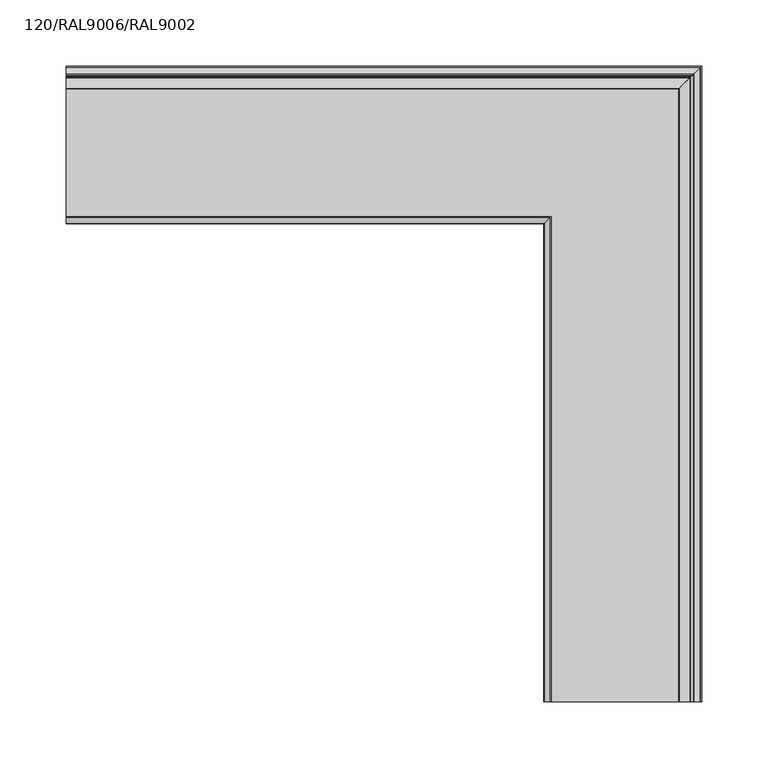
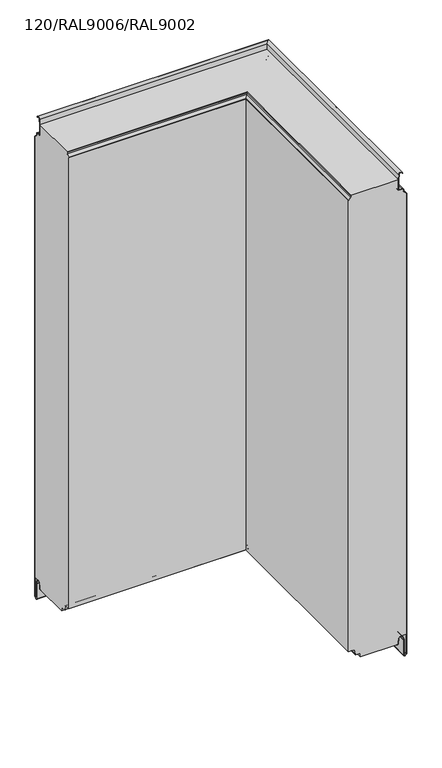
"""IFC4 building model written with IfcOpenShell, lengths in millimetres: plate geometry, TR_C_H_FHL_Corner_Tr_A : 120/RAL9006/RAL9002."""

from ifc_helpers import new_model, si_unit, frame, origin, place, context, project, spatial, polyline, circle_curve, ellipse_curve, source, transform, mapped, element, save
from ifc_brep_helpers import plane_surface, cylinder_surface, revolved_surface, advanced_brep


def plate_120_ral9006_ral9002_e2026118(model_context):
    return source(origin(), model_context, "Body", "AdvancedBrep", [
        advanced_brep(
        [(222.5544237, -480.0, 1000.0), (126.8, -480.0, 1000.0), (126.8, -480.0, 998.1), (125.8334524, -480.0, 995.7665476), (121.4443651, -480.0, 991.3774603), (120.8, -480.0, 989.8218254), (120.8, -480.0, 19.9), (129.45, -480.0, 19.9), (133.635433, -480.0, 16.3880048), (134.9718183, -480.0, 8.808987), (136.0551068, -480.0, 7.9), (145.14, -480.0, 7.9), (145.14, -480.0, 0.0), (219.2, -480.0, 0.0), (220.2091721, -480.0, 0.1), (221.9027031, -480.0, 1.6518352), (222.7666165, -480.0, 11.5264116), (227.6479706, -480.0, 15.9993484), (239.2, -480.0, 15.9993484), (239.2, -480.0, 963.4370797), (238.6435029, -480.0, 964.7805826), (233.820101, -480.0, 969.6039845), (233.0, -480.0, 971.5838835), (233.0, -480.0, 974.4), (231.1, -480.0, 976.3), (225.2, -480.0, 976.3), (222.4, -480.0, 979.1), (222.4, -480.0, 998.2349288), (120.8, -119.2, 19.9), (120.8, -119.2, 989.8218254), (-240.0, -119.2, 989.8218254), (-240.0, -119.2, 19.9), (239.2, -0.8, 963.4370797), (239.2, -0.8, 15.9993484), (-240.0, -0.8, 15.9993484), (-240.0, -0.8, 963.4370797), (-240.0, -17.4455763, 1000.0), (-240.0, -17.6, 998.2349288), (-240.0, -17.6, 979.1), (-240.0, -14.8, 976.3), (-240.0, -8.9, 976.3), (-240.0, -7.0, 974.4), (-240.0, -7.0, 971.5838835), (-240.0, -6.179899, 969.6039845), (-240.0, -1.3564971, 964.7805826), (-240.0, -12.3520294, 15.9993484), (-240.0, -17.2333835, 11.5264116), (-240.0, -18.0972969, 1.6518352), (-240.0, -19.7908279, 0.1), (-240.0, -20.8, 0.0), (-240.0, -94.86, 0.0), (-240.0, -94.86, 7.9), (-240.0, -103.9448932, 7.9), (-240.0, -105.0281817, 8.808987), (-240.0, -106.364567, 16.3880048), (-240.0, -110.55, 19.9), (-240.0, -118.5556349, 991.3774603), (-240.0, -114.1665476, 995.7665476), (-240.0, -113.2, 998.1), (-240.0, -113.2, 1000.0), (222.5544237, -17.4455763, 1000.0), (126.8, -113.2, 1000.0), (145.14, -94.86, 0.0), (219.2, -20.8, 0.0), (126.8, -113.2, 998.1), (125.8334524, -114.1665476, 995.7665476), (121.4443651, -118.5556349, 991.3774603), (129.45, -110.55, 19.9), (133.635433, -106.364567, 16.3880048), (134.9718183, -105.0281817, 8.808987), (136.0551068, -103.9448932, 7.9), (145.14, -94.86, 7.9), (220.2091721, -19.7908279, 0.1), (221.9027031, -18.0972969, 1.6518352), (222.7666165, -17.2333835, 11.5264116), (227.6479706, -12.3520294, 15.9993484), (238.6435029, -1.3564971, 964.7805826), (233.820101, -6.179899, 969.6039845), (233.0, -7.0, 971.5838835), (233.0, -7.0, 974.4), (231.1, -8.9, 976.3), (225.2, -14.8, 976.3), (222.4, -17.6, 979.1), (222.4, -17.6, 998.2349288)],
        [
            (0, 1),
            (1, 2),
            (2, 3, circle_curve(frame((123.5, -480.0, 998.1), z_axis=(0.0, 1.0, 0.0), x_axis=(-1.0, 0.0, 0.0)), 3.3)),
            (3, 4),
            (4, 5, circle_curve(frame((123.0, -480.0, 989.8218254), z_axis=(0.0, -1.0, 0.0), x_axis=(-1.0, 0.0, 0.0)), 2.2)),
            (5, 6),
            (6, 7),
            (7, 8, circle_curve(frame((129.45, -480.0, 15.65), z_axis=(0.0, 1.0, 0.0), x_axis=(-1.0, 0.0, 0.0)), 4.25)),
            (8, 9),
            (9, 10, circle_curve(frame((136.0551068, -480.0, 9.0), z_axis=(0.0, -1.0, 0.0), x_axis=(-1.0, 0.0, 0.0)), 1.1)),
            (10, 11),
            (11, 12),
            (12, 13),
            (13, 14),
            (14, 15, circle_curve(frame((220.2091721, -480.0, 1.8), z_axis=(0.0, -1.0, 0.0), x_axis=(-1.0, 0.0, 0.0)), 1.7)),
            (15, 16),
            (16, 17, circle_curve(frame((227.6479706, -480.0, 11.0993484), z_axis=(0.0, 1.0, 0.0), x_axis=(-1.0, 0.0, 0.0)), 4.9)),
            (17, 18),
            (18, 19),
            (19, 20, circle_curve(frame((237.3, -480.0, 963.4370797), z_axis=(0.0, -1.0, 0.0), x_axis=(-1.0, 0.0, 0.0)), 1.9)),
            (20, 21),
            (21, 22, circle_curve(frame((235.8, -480.0, 971.5838835), z_axis=(0.0, 1.0, 0.0), x_axis=(-1.0, 0.0, 0.0)), 2.8)),
            (22, 23),
            (23, 24, circle_curve(frame((231.1, -480.0, 974.4), z_axis=(0.0, -1.0, 0.0), x_axis=(-1.0, 0.0, 0.0)), 1.9)),
            (24, 25),
            (25, 26, circle_curve(frame((225.2, -480.0, 979.1), z_axis=(0.0, 1.0, 0.0), x_axis=(-1.0, 0.0, 0.0)), 2.8)),
            (26, 27),
            (27, 0),
            (28, 29),
            (29, 30),
            (30, 31),
            (31, 28),
            (32, 33),
            (33, 34),
            (34, 35),
            (35, 32),
            (36, 37),
            (37, 38),
            (38, 39, circle_curve(frame((-240.0, -14.8, 979.1), z_axis=(1.0, 0.0, 0.0), x_axis=(0.0, -1.0, 0.0)), 2.8)),
            (39, 40),
            (40, 41, circle_curve(frame((-240.0, -8.9, 974.4), z_axis=(-1.0, 0.0, 0.0), x_axis=(0.0, -1.0, 0.0)), 1.9)),
            (41, 42),
            (42, 43, circle_curve(frame((-240.0, -4.2, 971.5838835), z_axis=(1.0, 0.0, 0.0), x_axis=(0.0, -1.0, 0.0)), 2.8)),
            (43, 44),
            (44, 35, circle_curve(frame((-240.0, -2.7, 963.4370797), z_axis=(-1.0, 0.0, 0.0), x_axis=(0.0, -1.0, 0.0)), 1.9)),
            (34, 45),
            (45, 46, circle_curve(frame((-240.0, -12.3520294, 11.0993484), z_axis=(1.0, 0.0, 0.0), x_axis=(0.0, -1.0, 0.0)), 4.9)),
            (46, 47),
            (47, 48, circle_curve(frame((-240.0, -19.7908279, 1.8), z_axis=(-1.0, 0.0, 0.0), x_axis=(0.0, -1.0, 0.0)), 1.7)),
            (48, 49),
            (49, 50),
            (50, 51),
            (51, 52),
            (52, 53, circle_curve(frame((-240.0, -103.9448932, 9.0), z_axis=(-1.0, 0.0, 0.0), x_axis=(0.0, -1.0, 0.0)), 1.1)),
            (53, 54),
            (54, 55, circle_curve(frame((-240.0, -110.55, 15.65), z_axis=(1.0, 0.0, 0.0), x_axis=(0.0, -1.0, 0.0)), 4.25)),
            (55, 31),
            (30, 56, circle_curve(frame((-240.0, -117.0, 989.8218254), z_axis=(-1.0, 0.0, 0.0), x_axis=(0.0, -1.0, 0.0)), 2.2)),
            (56, 57),
            (57, 58, circle_curve(frame((-240.0, -116.5, 998.1), z_axis=(1.0, 0.0, 0.0), x_axis=(0.0, -1.0, 0.0)), 3.3)),
            (58, 59),
            (59, 36),
            (0, 60),
            (60, 36),
            (59, 61),
            (61, 1),
            (5, 29),
            (28, 6),
            (12, 62),
            (62, 50),
            (49, 63),
            (63, 13),
            (18, 33),
            (32, 19),
            (61, 64),
            (64, 2),
            (64, 65, ellipse_curve(frame((123.5, -116.5, 998.1), z_axis=(-0.7071067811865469, 0.707106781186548, 0.0), x_axis=(0.7071067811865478, 0.707106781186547, 0.0)), 4.6669048, 3.3)),
            (65, 3),
            (65, 66),
            (66, 4),
            (66, 29, ellipse_curve(frame((123.0, -117.0, 989.8218254), z_axis=(0.7071067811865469, -0.707106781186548, 0.0), x_axis=(-0.7071067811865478, -0.707106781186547, 0.0)), 3.1112698, 2.2)),
            (55, 67),
            (67, 7),
            (67, 68, ellipse_curve(frame((129.45, -110.55, 15.65), z_axis=(-0.7071067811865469, 0.707106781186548, 0.0), x_axis=(0.7071067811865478, 0.707106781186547, 0.0)), 6.0104076, 4.25)),
            (68, 8),
            (68, 69),
            (69, 9),
            (69, 70, ellipse_curve(frame((136.0551068, -103.9448932, 9.0), z_axis=(0.7071067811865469, -0.707106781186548, 0.0), x_axis=(-0.7071067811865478, -0.707106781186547, 0.0)), 1.5556349, 1.1)),
            (70, 10),
            (70, 52),
            (51, 71),
            (71, 11),
            (71, 62),
            (63, 72),
            (72, 14),
            (72, 73, ellipse_curve(frame((220.2091721, -19.7908279, 1.8), z_axis=(0.7071067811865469, -0.707106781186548, 0.0), x_axis=(-0.7071067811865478, -0.707106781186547, 0.0)), 2.4041631, 1.7)),
            (73, 15),
            (73, 74),
            (74, 16),
            (74, 75, ellipse_curve(frame((227.6479706, -12.3520294, 11.0993484), z_axis=(-0.7071067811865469, 0.707106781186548, 0.0), x_axis=(0.7071067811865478, 0.707106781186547, 0.0)), 6.9296465, 4.9)),
            (75, 17),
            (75, 45),
            (32, 76, ellipse_curve(frame((237.3, -2.7, 963.4370797), z_axis=(0.7071067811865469, -0.707106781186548, 0.0), x_axis=(-0.7071067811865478, -0.707106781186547, 0.0)), 2.6870058, 1.9)),
            (76, 20),
            (76, 77),
            (77, 21),
            (77, 78, ellipse_curve(frame((235.8, -4.2, 971.5838835), z_axis=(-0.7071067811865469, 0.707106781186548, 0.0), x_axis=(0.7071067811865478, 0.707106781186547, 0.0)), 3.959798, 2.8)),
            (78, 22),
            (78, 79),
            (79, 23),
            (79, 80, ellipse_curve(frame((231.1, -8.9, 974.4), z_axis=(0.7071067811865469, -0.707106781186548, 0.0), x_axis=(-0.7071067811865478, -0.707106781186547, 0.0)), 2.6870058, 1.9)),
            (80, 24),
            (80, 40),
            (39, 81),
            (81, 25),
            (81, 82, ellipse_curve(frame((225.2, -14.8, 979.1), z_axis=(-0.7071067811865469, 0.707106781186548, 0.0), x_axis=(0.7071067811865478, 0.707106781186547, 0.0)), 3.959798, 2.8)),
            (82, 26),
            (82, 83),
            (83, 27),
            (83, 60),
            (58, 64),
            (57, 65),
            (56, 66),
            (54, 68),
            (53, 69),
            (48, 72),
            (47, 73),
            (46, 74),
            (44, 76),
            (43, 77),
            (42, 78),
            (41, 79),
            (38, 82),
            (37, 83),
        ],
        [
            plane_surface(frame((240.0, -480.0, 0.0), z_axis=(0.0, -1.0, 0.0), x_axis=(0.0, 0.0, 1.0))),
            plane_surface(frame((120.8, -119.2, 989.8218254), z_axis=(0.0, -1.0, 0.0), x_axis=(-1.0, 0.0, 0.0))),
            plane_surface(frame((239.2, -0.8, 15.9993484), z_axis=(0.0, 1.0, 0.0), x_axis=(-1.0, 0.0, 0.0))),
            plane_surface(frame((-240.0, 0.0, 0.0), z_axis=(-1.0, 0.0, 0.0), x_axis=(0.0, 0.0, 1.0))),
            plane_surface(frame((222.5544237, -480.0, 1000.0), z_axis=(0.0, 0.0, 1.0), x_axis=(0.0, 1.0, 0.0))),
            plane_surface(frame((120.8, -480.0, 989.8218254), z_axis=(-1.0, 0.0, 0.0), x_axis=(0.0, 1.0, 0.0))),
            plane_surface(frame((145.14, -480.0, 0.0), z_axis=(0.0, 0.0, -1.0), x_axis=(0.0, 1.0, 0.0))),
            plane_surface(frame((239.2, -480.0, 15.9993484), z_axis=(1.0, 0.0, 0.0), x_axis=(0.0, 1.0, 0.0))),
            plane_surface(frame((126.8, -480.0, 1000.0), z_axis=(-1.0, 0.0, 0.0), x_axis=(0.0, 1.0, 0.0))),
            revolved_surface(polyline([(120.2, -113.19999996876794, 998.1), (120.2, -480.0, 998.1)]), (123.5, -480.0, 998.1), (0.0, 1.0, 0.0)),
            plane_surface(frame((125.8334524, -480.0, 995.7665476), z_axis=(-0.7071067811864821, 0.0, 0.707106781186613), x_axis=(0.0, 1.0, 0.0))),
            cylinder_surface(frame((123.0, -480.0, 989.8218254), z_axis=(0.0, -1.0, 0.0), x_axis=(-1.0, 0.0, 0.0)), 2.2),
            plane_surface(frame((120.8, -480.0, 19.9), z_axis=(0.0, 0.0, -1.0), x_axis=(0.0, 1.0, 0.0))),
            revolved_surface(polyline([(125.19999999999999, -106.30000002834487, 15.65), (125.19999999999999, -480.0, 15.65)]), (129.45, -480.0, 15.65), (0.0, 1.0, 0.0)),
            plane_surface(frame((133.635433, -480.0, 16.3880048), z_axis=(-0.984807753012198, 0.0, -0.1736481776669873), x_axis=(0.0, 1.0, 0.0))),
            cylinder_surface(frame((136.0551068, -480.0, 9.0), z_axis=(0.0, -1.0, 0.0), x_axis=(-1.0, 0.0, 0.0)), 1.1),
            plane_surface(frame((136.0551068, -480.0, 7.9), z_axis=(0.0, 0.0, -1.0), x_axis=(0.0, 1.0, 0.0))),
            plane_surface(frame((145.14, -480.0, 7.9), z_axis=(-1.0, 0.0, 0.0), x_axis=(0.0, 1.0, 0.0))),
            plane_surface(frame((219.2, -480.0, 0.0), z_axis=(0.09860819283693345, 0.0, -0.9951263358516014), x_axis=(0.0, 1.0, 0.0))),
            cylinder_surface(frame((220.2091721, -480.0, 1.8), z_axis=(0.0, -1.0, 0.0), x_axis=(-1.0, 0.0, 0.0)), 1.7),
            plane_surface(frame((221.9027031, -480.0, 1.6518352), z_axis=(0.996194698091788, 0.0, -0.08715574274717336), x_axis=(0.0, 1.0, 0.0))),
            revolved_surface(polyline([(222.7479706, -7.45202936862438, 11.0993484), (222.7479706, -480.0, 11.0993484)]), (227.6479706, -480.0, 11.0993484), (0.0, 1.0, 0.0)),
            plane_surface(frame((227.6479706, -480.0, 15.9993484), z_axis=(0.0, 0.0, -1.0), x_axis=(0.0, 1.0, 0.0))),
            cylinder_surface(frame((237.3, -480.0, 963.4370797), z_axis=(0.0, -1.0, 0.0), x_axis=(-1.0, 0.0, 0.0)), 1.9),
            plane_surface(frame((238.6435029, -480.0, 964.7805826), z_axis=(0.7071067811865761, 0.0, 0.707106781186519), x_axis=(0.0, 1.0, 0.0))),
            revolved_surface(polyline([(233.0, -1.3999999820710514, 971.5838835), (233.0, -480.0, 971.5838835)]), (235.8, -480.0, 971.5838835), (0.0, 1.0, 0.0)),
            plane_surface(frame((233.0, -480.0, 971.5838835), z_axis=(1.0, 0.0, 0.0), x_axis=(0.0, 1.0, 0.0))),
            cylinder_surface(frame((231.1, -480.0, 974.4), z_axis=(0.0, -1.0, 0.0), x_axis=(-1.0, 0.0, 0.0)), 1.9),
            plane_surface(frame((231.1, -480.0, 976.3), z_axis=(0.0, 0.0, 1.0), x_axis=(0.0, 1.0, 0.0))),
            revolved_surface(polyline([(222.39999999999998, -11.999999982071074, 979.1), (222.39999999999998, -480.0, 979.1)]), (225.2, -480.0, 979.1), (0.0, 1.0, 0.0)),
            plane_surface(frame((222.4, -480.0, 979.1), z_axis=(1.0, 0.0, 0.0), x_axis=(0.0, 1.0, 0.0))),
            plane_surface(frame((222.4, -480.0, 998.2349288), z_axis=(0.9961946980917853, 0.0, -0.08715574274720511), x_axis=(0.0, 1.0, 0.0))),
            plane_surface(frame((126.8, -113.2, 1000.0), z_axis=(0.0, -1.0, 0.0), x_axis=(-1.0, 0.0, 0.0))),
            revolved_surface(polyline([(-240.0, -119.8, 998.1), (126.80000003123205, -119.8, 998.1)]), (240.0, -116.5, 998.1), (-1.0, 0.0, 0.0)),
            plane_surface(frame((125.8334524, -114.1665476, 995.7665476), z_axis=(0.0, -0.7071067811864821, 0.707106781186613), x_axis=(-1.0, 0.0, 0.0))),
            cylinder_surface(frame((240.0, -117.0, 989.8218254), z_axis=(1.0, 0.0, 0.0), x_axis=(0.0, -1.0, 0.0)), 2.2),
            revolved_surface(polyline([(-240.0, -114.8, 15.65), (133.69999997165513, -114.8, 15.65)]), (240.0, -110.55, 15.65), (-1.0, 0.0, 0.0)),
            plane_surface(frame((133.635433, -106.364567, 16.3880048), z_axis=(0.0, -0.984807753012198, -0.1736481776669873), x_axis=(-1.0, 0.0, 0.0))),
            cylinder_surface(frame((240.0, -103.9448932, 9.0), z_axis=(1.0, 0.0, 0.0), x_axis=(0.0, -1.0, 0.0)), 1.1),
            plane_surface(frame((145.14, -94.86, 7.9), z_axis=(0.0, -1.0, 0.0), x_axis=(-1.0, 0.0, 0.0))),
            plane_surface(frame((219.2, -20.8, 0.0), z_axis=(0.0, 0.09860819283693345, -0.9951263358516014), x_axis=(-1.0, 0.0, 0.0))),
            cylinder_surface(frame((240.0, -19.7908279, 1.8), z_axis=(1.0, 0.0, 0.0), x_axis=(0.0, -1.0, 0.0)), 1.7),
            plane_surface(frame((221.9027031, -18.0972969, 1.6518352), z_axis=(0.0, 0.996194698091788, -0.08715574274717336), x_axis=(-1.0, 0.0, 0.0))),
            revolved_surface(polyline([(-240.0, -17.252029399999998, 11.0993484), (232.54797063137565, -17.252029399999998, 11.0993484)]), (240.0, -12.3520294, 11.0993484), (-1.0, 0.0, 0.0)),
            cylinder_surface(frame((240.0, -2.7, 963.4370797), z_axis=(1.0, 0.0, 0.0), x_axis=(0.0, -1.0, 0.0)), 1.9),
            plane_surface(frame((238.6435029, -1.3564971, 964.7805826), z_axis=(0.0, 0.7071067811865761, 0.707106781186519), x_axis=(-1.0, 0.0, 0.0))),
            revolved_surface(polyline([(-240.0, -7.0, 971.5838835), (238.60000001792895, -7.0, 971.5838835)]), (240.0, -4.2, 971.5838835), (-1.0, 0.0, 0.0)),
            plane_surface(frame((233.0, -7.0, 971.5838835), z_axis=(0.0, 1.0, 0.0), x_axis=(-1.0, 0.0, 0.0))),
            cylinder_surface(frame((240.0, -8.9, 974.4), z_axis=(1.0, 0.0, 0.0), x_axis=(0.0, -1.0, 0.0)), 1.9),
            revolved_surface(polyline([(-240.0, -17.6, 979.1), (228.00000001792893, -17.6, 979.1)]), (240.0, -14.8, 979.1), (-1.0, 0.0, 0.0)),
            plane_surface(frame((222.4, -17.6, 979.1), z_axis=(0.0, 1.0, 0.0), x_axis=(-1.0, 0.0, 0.0))),
            plane_surface(frame((222.4, -17.6, 998.2349288), z_axis=(0.0, 0.9961946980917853, -0.08715574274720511), x_axis=(-1.0, 0.0, 0.0))),
        ],
        [
            (0, [[1, 2, 3, 4, 5, 6, 7, 8, 9, 10, 11, 12, 13, 14, 15, 16, 17, 18, 19, 20, 21, 22, 23, 24, 25, 26, 27, 28]]),
            (1, [[29, 30, 31, 32]]),
            (2, [[33, 34, 35, 36]]),
            (3, [[37, 38, 39, 40, 41, 42, 43, 44, 45, -35, 46, 47, 48, 49, 50, 51, 52, 53, 54, 55, 56, 57, -31, 58, 59, 60, 61, 62]]),
            (4, [[-1, 63, 64, -62, 65, 66]]),
            (5, [[-6, 67, -29, 68]]),
            (6, [[-13, 69, 70, -51, 71, 72]]),
            (7, [[-19, 73, -33, 74]]),
            (8, [[-2, -66, 75, 76]]),
            (9, [[-3, -76, 77, 78]]),
            (10, [[-4, -78, 79, 80]]),
            (11, [[-5, -80, 81, -67]]),
            (12, [[-7, -68, -32, -57, 82, 83]]),
            (13, [[-8, -83, 84, 85]]),
            (14, [[-9, -85, 86, 87]]),
            (15, [[-10, -87, 88, 89]]),
            (16, [[-11, -89, 90, -53, 91, 92]]),
            (17, [[-12, -92, 93, -69]]),
            (18, [[-14, -72, 94, 95]]),
            (19, [[-15, -95, 96, 97]]),
            (20, [[-16, -97, 98, 99]]),
            (21, [[-17, -99, 100, 101]]),
            (22, [[-18, -101, 102, -46, -34, -73]]),
            (23, [[-20, -74, 103, 104]]),
            (24, [[-21, -104, 105, 106]]),
            (25, [[-22, -106, 107, 108]]),
            (26, [[-23, -108, 109, 110]]),
            (27, [[-24, -110, 111, 112]]),
            (28, [[-25, -112, 113, -40, 114, 115]]),
            (29, [[-26, -115, 116, 117]]),
            (30, [[-27, -117, 118, 119]]),
            (31, [[-28, -119, 120, -63]]),
            (32, [[-75, -65, -61, 121]]),
            (33, [[-77, -121, -60, 122]]),
            (34, [[-79, -122, -59, 123]]),
            (35, [[-81, -123, -58, -30]]),
            (36, [[-84, -82, -56, 124]]),
            (37, [[-86, -124, -55, 125]]),
            (38, [[-88, -125, -54, -90]]),
            (39, [[-93, -91, -52, -70]]),
            (40, [[-94, -71, -50, 126]]),
            (41, [[-96, -126, -49, 127]]),
            (42, [[-98, -127, -48, 128]]),
            (43, [[-100, -128, -47, -102]]),
            (44, [[-103, -36, -45, 129]]),
            (45, [[-105, -129, -44, 130]]),
            (46, [[-107, -130, -43, 131]]),
            (47, [[-109, -131, -42, 132]]),
            (48, [[-111, -132, -41, -113]]),
            (49, [[-116, -114, -39, 133]]),
            (50, [[-118, -133, -38, 134]]),
            (51, [[-120, -134, -37, -64]]),
        ],
    ),
        advanced_brep(
        [(240.0, -480.0, 963.4370797), (239.2091883, -480.0, 965.346268), (234.3857864, -480.0, 970.1696699), (233.8, -480.0, 971.5838835), (233.8, -480.0, 974.4), (231.1, -480.0, 977.1), (225.2, -480.0, 977.1), (223.2, -480.0, 979.1), (223.2, -480.0, 998.2), (224.2917621, -480.0, 1010.6788984), (230.5052446, -480.0, 1011.4418181), (230.8148588, -480.0, 1010.5426332), (231.5712737, -480.0, 1010.8030877), (231.2616595, -480.0, 1011.7022726), (223.4948064, -480.0, 1010.748623), (222.4, -480.0, 998.2349288), (222.4, -480.0, 979.1), (225.2, -480.0, 976.3), (231.1, -480.0, 976.3), (233.0, -480.0, 974.4), (233.0, -480.0, 971.5838835), (233.820101, -480.0, 969.6039845), (238.6435029, -480.0, 964.7805826), (239.2, -480.0, 963.4370797), (239.2, -480.0, -25.1006169), (238.5957969, -480.0, -26.4901889), (236.6501982, -480.0, -28.3044891), (234.8, -480.0, -27.5), (234.8, -480.0, 4.8267282), (234.6202113, -480.0, 5.9011031), (232.2810116, -480.0, 12.6946324), (222.7666165, -480.0, 11.5264116), (221.9027031, -480.0, 1.6518352), (220.2091721, -480.0, 0.1), (219.2, -480.0, 0.1), (219.2, -480.0, -0.7), (220.2091721, -480.0, -0.7), (222.6996588, -480.0, 1.5821106), (223.5635723, -480.0, 11.456687), (231.5245967, -480.0, 12.4341779), (233.8637964, -480.0, 5.6406486), (234.0, -480.0, 4.8267282), (234.0, -480.0, -27.5), (237.1957969, -480.0, -28.889572), (239.1413956, -480.0, -27.0752719), (240.0, -480.0, -25.1006169), (239.2, -0.8, -25.1006169), (239.2, -0.8, 963.4370797), (-240.0, -0.8, 963.4370797), (-240.0, -0.8, -25.1006169), (240.0, 0.0, 963.4370797), (240.0, 0.0, -25.1006169), (-240.0, 0.0, -25.1006169), (-240.0, 0.0, 963.4370797), (-240.0, -0.8586044, -27.0752719), (-240.0, -2.8042031, -28.889572), (-240.0, -6.0, -27.5), (-240.0, -6.0, 4.8267282), (-240.0, -6.1362036, 5.6406486), (-240.0, -8.4754033, 12.4341779), (-240.0, -16.4364277, 11.456687), (-240.0, -17.3003412, 1.5821106), (-240.0, -19.7908279, -0.7), (-240.0, -20.8, -0.7), (-240.0, -20.8, 0.1), (-240.0, -19.7908279, 0.1), (-240.0, -18.0972969, 1.6518352), (-240.0, -17.2333835, 11.5264116), (-240.0, -7.7189884, 12.6946324), (-240.0, -5.3797887, 5.9011031), (-240.0, -5.2, 4.8267282), (-240.0, -5.2, -27.5), (-240.0, -3.3498018, -28.3044891), (-240.0, -1.4042031, -26.4901889), (-240.0, -1.3564971, 964.7805826), (-240.0, -6.179899, 969.6039845), (-240.0, -7.0, 971.5838835), (-240.0, -7.0, 974.4), (-240.0, -8.9, 976.3), (-240.0, -14.8, 976.3), (-240.0, -17.6, 979.1), (-240.0, -17.6, 998.2349288), (-240.0, -16.5051936, 1010.748623), (-240.0, -8.7383405, 1011.7022726), (-240.0, -8.4287263, 1010.8030877), (-240.0, -9.1851412, 1010.5426332), (-240.0, -9.4947554, 1011.4418181), (-240.0, -15.7082379, 1010.6788984), (-240.0, -16.8, 998.2), (-240.0, -16.8, 979.1), (-240.0, -14.8, 977.1), (-240.0, -8.9, 977.1), (-240.0, -6.2, 974.4), (-240.0, -6.2, 971.5838835), (-240.0, -5.6142136, 970.1696699), (-240.0, -0.7908117, 965.346268), (239.2091883, -0.7908117, 965.346268), (234.3857864, -5.6142136, 970.1696699), (233.8, -6.2, 971.5838835), (233.8, -6.2, 974.4), (231.1, -8.9, 977.1), (225.2, -14.8, 977.1), (223.2, -16.8, 979.1), (223.2, -16.8, 998.2), (224.2917621, -15.7082379, 1010.6788984), (230.5052446, -9.4947554, 1011.4418181), (230.8148588, -9.1851412, 1010.5426332), (231.5712737, -8.4287263, 1010.8030877), (231.2616595, -8.7383405, 1011.7022726), (223.4948064, -16.5051936, 1010.748623), (222.4, -17.6, 998.2349288), (222.4, -17.6, 979.1), (225.2, -14.8, 976.3), (231.1, -8.9, 976.3), (233.0, -7.0, 974.4), (233.0, -7.0, 971.5838835), (233.820101, -6.179899, 969.6039845), (238.6435029, -1.3564971, 964.7805826), (238.5957969, -1.4042031, -26.4901889), (236.6501982, -3.3498018, -28.3044891), (234.8, -5.2, -27.5), (234.8, -5.2, 4.8267282), (234.6202113, -5.3797887, 5.9011031), (232.2810116, -7.7189884, 12.6946324), (222.7666165, -17.2333835, 11.5264116), (221.9027031, -18.0972969, 1.6518352), (220.2091721, -19.7908279, 0.1), (219.2, -20.8, 0.1), (219.2, -20.8, -0.7), (220.2091721, -19.7908279, -0.7), (222.6996588, -17.3003412, 1.5821106), (223.5635723, -16.4364277, 11.456687), (231.5245967, -8.4754033, 12.4341779), (233.8637964, -6.1362036, 5.6406486), (234.0, -6.0, 4.8267282), (234.0, -6.0, -27.5), (237.1957969, -2.8042031, -28.889572), (239.1413956, -0.8586044, -27.0752719)],
        [
            (0, 1, circle_curve(frame((237.3, -480.0, 963.4370797), z_axis=(0.0, -1.0, 0.0), x_axis=(-1.0, 0.0, 0.0)), 2.7)),
            (1, 2),
            (2, 3, circle_curve(frame((235.8, -480.0, 971.5838835), z_axis=(0.0, 1.0, 0.0), x_axis=(-1.0, 0.0, 0.0)), 2.0)),
            (3, 4),
            (4, 5, circle_curve(frame((231.1, -480.0, 974.4), z_axis=(0.0, -1.0, 0.0), x_axis=(-1.0, 0.0, 0.0)), 2.7)),
            (5, 6),
            (6, 7, circle_curve(frame((225.2, -480.0, 979.1), z_axis=(0.0, 1.0, 0.0), x_axis=(-1.0, 0.0, 0.0)), 2.0)),
            (7, 8),
            (8, 9),
            (9, 10, circle_curve(frame((227.4795852, -480.0, 1010.4), z_axis=(0.0, 1.0, 0.0), x_axis=(-1.0, 0.0, 0.0)), 3.2)),
            (10, 11),
            (11, 12),
            (12, 13),
            (13, 14, circle_curve(frame((227.4795852, -480.0, 1010.4), z_axis=(0.0, -1.0, 0.0), x_axis=(-1.0, 0.0, 0.0)), 4.0)),
            (14, 15),
            (15, 16),
            (16, 17, circle_curve(frame((225.2, -480.0, 979.1), z_axis=(0.0, -1.0, 0.0), x_axis=(-1.0, 0.0, 0.0)), 2.8)),
            (17, 18),
            (18, 19, circle_curve(frame((231.1, -480.0, 974.4), z_axis=(0.0, 1.0, 0.0), x_axis=(-1.0, 0.0, 0.0)), 1.9)),
            (19, 20),
            (20, 21, circle_curve(frame((235.8, -480.0, 971.5838835), z_axis=(0.0, -1.0, 0.0), x_axis=(-1.0, 0.0, 0.0)), 2.8)),
            (21, 22),
            (22, 23, circle_curve(frame((237.3, -480.0, 963.4370797), z_axis=(0.0, 1.0, 0.0), x_axis=(-1.0, 0.0, 0.0)), 1.9)),
            (23, 24),
            (24, 25, circle_curve(frame((237.3, -480.0, -25.1006169), z_axis=(0.0, 1.0, 0.0), x_axis=(-1.0, 0.0, 0.0)), 1.9)),
            (25, 26),
            (26, 27, circle_curve(frame((235.9, -480.0, -27.5), z_axis=(0.0, 1.0, 0.0), x_axis=(-1.0, 0.0, 0.0)), 1.1)),
            (27, 28),
            (28, 29, circle_curve(frame((231.5, -480.0, 4.8267282), z_axis=(0.0, -1.0, 0.0), x_axis=(-1.0, 0.0, 0.0)), 3.3)),
            (29, 30),
            (30, 31, circle_curve(frame((227.6479706, -480.0, 11.0993484), z_axis=(0.0, -1.0, 0.0), x_axis=(-1.0, 0.0, 0.0)), 4.9)),
            (31, 32),
            (32, 33, circle_curve(frame((220.2091721, -480.0, 1.8), z_axis=(0.0, 1.0, 0.0), x_axis=(-1.0, 0.0, 0.0)), 1.7)),
            (33, 34),
            (34, 35),
            (35, 36),
            (36, 37, circle_curve(frame((220.2091721, -480.0, 1.8), z_axis=(0.0, -1.0, 0.0), x_axis=(-1.0, 0.0, 0.0)), 2.5)),
            (37, 38),
            (38, 39, circle_curve(frame((227.6479706, -480.0, 11.0993484), z_axis=(0.0, 1.0, 0.0), x_axis=(-1.0, 0.0, 0.0)), 4.1)),
            (39, 40),
            (40, 41, circle_curve(frame((231.5, -480.0, 4.8267282), z_axis=(0.0, 1.0, 0.0), x_axis=(-1.0, 0.0, 0.0)), 2.5)),
            (41, 42),
            (42, 43, circle_curve(frame((235.9, -480.0, -27.5), z_axis=(0.0, -1.0, 0.0), x_axis=(-1.0, 0.0, 0.0)), 1.9)),
            (43, 44),
            (44, 45, circle_curve(frame((237.3, -480.0, -25.1006169), z_axis=(0.0, -1.0, 0.0), x_axis=(-1.0, 0.0, 0.0)), 2.7)),
            (45, 0),
            (46, 47),
            (47, 48),
            (48, 49),
            (49, 46),
            (50, 51),
            (51, 52),
            (52, 53),
            (53, 50),
            (52, 54, circle_curve(frame((-240.0, -2.7, -25.1006169), z_axis=(-1.0, 0.0, 0.0), x_axis=(0.0, -1.0, 0.0)), 2.7)),
            (54, 55),
            (55, 56, circle_curve(frame((-240.0, -4.1, -27.5), z_axis=(-1.0, 0.0, 0.0), x_axis=(0.0, -1.0, 0.0)), 1.9)),
            (56, 57),
            (57, 58, circle_curve(frame((-240.0, -8.5, 4.8267282), z_axis=(1.0, 0.0, 0.0), x_axis=(0.0, -1.0, 0.0)), 2.5)),
            (58, 59),
            (59, 60, circle_curve(frame((-240.0, -12.3520294, 11.0993484), z_axis=(1.0, 0.0, 0.0), x_axis=(0.0, -1.0, 0.0)), 4.1)),
            (60, 61),
            (61, 62, circle_curve(frame((-240.0, -19.7908279, 1.8), z_axis=(-1.0, 0.0, 0.0), x_axis=(0.0, -1.0, 0.0)), 2.5)),
            (62, 63),
            (63, 64),
            (64, 65),
            (65, 66, circle_curve(frame((-240.0, -19.7908279, 1.8), z_axis=(1.0, 0.0, 0.0), x_axis=(0.0, -1.0, 0.0)), 1.7)),
            (66, 67),
            (67, 68, circle_curve(frame((-240.0, -12.3520294, 11.0993484), z_axis=(-1.0, 0.0, 0.0), x_axis=(0.0, -1.0, 0.0)), 4.9)),
            (68, 69),
            (69, 70, circle_curve(frame((-240.0, -8.5, 4.8267282), z_axis=(-1.0, 0.0, 0.0), x_axis=(0.0, -1.0, 0.0)), 3.3)),
            (70, 71),
            (71, 72, circle_curve(frame((-240.0, -4.1, -27.5), z_axis=(1.0, 0.0, 0.0), x_axis=(0.0, -1.0, 0.0)), 1.1)),
            (72, 73),
            (73, 49, circle_curve(frame((-240.0, -2.7, -25.1006169), z_axis=(1.0, 0.0, 0.0), x_axis=(0.0, -1.0, 0.0)), 1.9)),
            (48, 74, circle_curve(frame((-240.0, -2.7, 963.4370797), z_axis=(1.0, 0.0, 0.0), x_axis=(0.0, -1.0, 0.0)), 1.9)),
            (74, 75),
            (75, 76, circle_curve(frame((-240.0, -4.2, 971.5838835), z_axis=(-1.0, 0.0, 0.0), x_axis=(0.0, -1.0, 0.0)), 2.8)),
            (76, 77),
            (77, 78, circle_curve(frame((-240.0, -8.9, 974.4), z_axis=(1.0, 0.0, 0.0), x_axis=(0.0, -1.0, 0.0)), 1.9)),
            (78, 79),
            (79, 80, circle_curve(frame((-240.0, -14.8, 979.1), z_axis=(-1.0, 0.0, 0.0), x_axis=(0.0, -1.0, 0.0)), 2.8)),
            (80, 81),
            (81, 82),
            (82, 83, circle_curve(frame((-240.0, -12.5204148, 1010.4), z_axis=(-1.0, 0.0, 0.0), x_axis=(0.0, -1.0, 0.0)), 4.0)),
            (83, 84),
            (84, 85),
            (85, 86),
            (86, 87, circle_curve(frame((-240.0, -12.5204148, 1010.4), z_axis=(1.0, 0.0, 0.0), x_axis=(0.0, -1.0, 0.0)), 3.2)),
            (87, 88),
            (88, 89),
            (89, 90, circle_curve(frame((-240.0, -14.8, 979.1), z_axis=(1.0, 0.0, 0.0), x_axis=(0.0, -1.0, 0.0)), 2.0)),
            (90, 91),
            (91, 92, circle_curve(frame((-240.0, -8.9, 974.4), z_axis=(-1.0, 0.0, 0.0), x_axis=(0.0, -1.0, 0.0)), 2.7)),
            (92, 93),
            (93, 94, circle_curve(frame((-240.0, -4.2, 971.5838835), z_axis=(1.0, 0.0, 0.0), x_axis=(0.0, -1.0, 0.0)), 2.0)),
            (94, 95),
            (95, 53, circle_curve(frame((-240.0, -2.7, 963.4370797), z_axis=(-1.0, 0.0, 0.0), x_axis=(0.0, -1.0, 0.0)), 2.7)),
            (23, 47),
            (46, 24),
            (45, 51),
            (50, 0),
            (50, 96, ellipse_curve(frame((237.3, -2.7, 963.4370797), z_axis=(0.7071067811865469, -0.707106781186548, 0.0), x_axis=(-0.7071067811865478, -0.707106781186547, 0.0)), 3.8183766, 2.7)),
            (96, 1),
            (96, 97),
            (97, 2),
            (97, 98, ellipse_curve(frame((235.8, -4.2, 971.5838835), z_axis=(-0.7071067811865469, 0.707106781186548, 0.0), x_axis=(0.7071067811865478, 0.707106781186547, 0.0)), 2.8284271, 2.0)),
            (98, 3),
            (98, 99),
            (99, 4),
            (99, 100, ellipse_curve(frame((231.1, -8.9, 974.4), z_axis=(0.7071067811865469, -0.707106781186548, 0.0), x_axis=(-0.7071067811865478, -0.707106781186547, 0.0)), 3.8183766, 2.7)),
            (100, 5),
            (100, 91),
            (90, 101),
            (101, 6),
            (101, 102, ellipse_curve(frame((225.2, -14.8, 979.1), z_axis=(-0.7071067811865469, 0.707106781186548, 0.0), x_axis=(0.7071067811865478, 0.707106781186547, 0.0)), 2.8284271, 2.0)),
            (102, 7),
            (102, 103),
            (103, 8),
            (103, 104),
            (104, 9),
            (104, 105, ellipse_curve(frame((227.4795852, -12.5204148, 1010.4), z_axis=(-0.7071067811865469, 0.707106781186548, 0.0), x_axis=(0.7071067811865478, 0.707106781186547, 0.0)), 4.5254834, 3.2)),
            (105, 10),
            (105, 106),
            (106, 11),
            (106, 107),
            (107, 12),
            (107, 108),
            (108, 13),
            (108, 109, ellipse_curve(frame((227.4795852, -12.5204148, 1010.4), z_axis=(0.7071067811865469, -0.707106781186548, 0.0), x_axis=(-0.7071067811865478, -0.707106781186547, 0.0)), 5.6568542, 4.0)),
            (109, 14),
            (109, 110),
            (110, 15),
            (110, 111),
            (111, 16),
            (111, 112, ellipse_curve(frame((225.2, -14.8, 979.1), z_axis=(0.7071067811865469, -0.707106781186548, 0.0), x_axis=(-0.7071067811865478, -0.707106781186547, 0.0)), 3.959798, 2.8)),
            (112, 17),
            (112, 79),
            (78, 113),
            (113, 18),
            (113, 114, ellipse_curve(frame((231.1, -8.9, 974.4), z_axis=(-0.7071067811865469, 0.707106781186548, 0.0), x_axis=(0.7071067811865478, 0.707106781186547, 0.0)), 2.6870058, 1.9)),
            (114, 19),
            (114, 115),
            (115, 20),
            (115, 116, ellipse_curve(frame((235.8, -4.2, 971.5838835), z_axis=(0.7071067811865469, -0.707106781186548, 0.0), x_axis=(-0.7071067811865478, -0.707106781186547, 0.0)), 3.959798, 2.8)),
            (116, 21),
            (116, 117),
            (117, 22),
            (117, 47, ellipse_curve(frame((237.3, -2.7, 963.4370797), z_axis=(-0.7071067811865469, 0.707106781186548, 0.0), x_axis=(0.7071067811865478, 0.707106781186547, 0.0)), 2.6870058, 1.9)),
            (46, 118, ellipse_curve(frame((237.3, -2.7, -25.1006169), z_axis=(-0.7071067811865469, 0.707106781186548, 0.0), x_axis=(0.7071067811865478, 0.707106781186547, 0.0)), 2.6870058, 1.9)),
            (118, 25),
            (118, 119),
            (119, 26),
            (119, 120, ellipse_curve(frame((235.9, -4.1, -27.5), z_axis=(-0.7071067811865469, 0.707106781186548, 0.0), x_axis=(0.7071067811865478, 0.707106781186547, 0.0)), 1.5556349, 1.1)),
            (120, 27),
            (120, 121),
            (121, 28),
            (121, 122, ellipse_curve(frame((231.5, -8.5, 4.8267282), z_axis=(0.7071067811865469, -0.707106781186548, 0.0), x_axis=(-0.7071067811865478, -0.707106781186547, 0.0)), 4.6669048, 3.3)),
            (122, 29),
            (122, 123),
            (123, 30),
            (123, 124, ellipse_curve(frame((227.6479706, -12.3520294, 11.0993484), z_axis=(0.7071067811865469, -0.707106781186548, 0.0), x_axis=(-0.7071067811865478, -0.707106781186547, 0.0)), 6.9296465, 4.9)),
            (124, 31),
            (124, 125),
            (125, 32),
            (125, 126, ellipse_curve(frame((220.2091721, -19.7908279, 1.8), z_axis=(-0.7071067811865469, 0.707106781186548, 0.0), x_axis=(0.7071067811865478, 0.707106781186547, 0.0)), 2.4041631, 1.7)),
            (126, 33),
            (126, 65),
            (64, 127),
            (127, 34),
            (127, 128),
            (128, 35),
            (128, 63),
            (62, 129),
            (129, 36),
            (129, 130, ellipse_curve(frame((220.2091721, -19.7908279, 1.8), z_axis=(0.7071067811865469, -0.707106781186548, 0.0), x_axis=(-0.7071067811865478, -0.707106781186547, 0.0)), 3.5355339, 2.5)),
            (130, 37),
            (130, 131),
            (131, 38),
            (131, 132, ellipse_curve(frame((227.6479706, -12.3520294, 11.0993484), z_axis=(-0.7071067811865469, 0.707106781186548, 0.0), x_axis=(0.7071067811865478, 0.707106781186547, 0.0)), 5.7982756, 4.1)),
            (132, 39),
            (132, 133),
            (133, 40),
            (133, 134, ellipse_curve(frame((231.5, -8.5, 4.8267282), z_axis=(-0.7071067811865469, 0.707106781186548, 0.0), x_axis=(0.7071067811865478, 0.707106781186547, 0.0)), 3.5355339, 2.5)),
            (134, 41),
            (134, 135),
            (135, 42),
            (135, 136, ellipse_curve(frame((235.9, -4.1, -27.5), z_axis=(0.7071067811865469, -0.707106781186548, 0.0), x_axis=(-0.7071067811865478, -0.707106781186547, 0.0)), 2.6870058, 1.9)),
            (136, 43),
            (136, 137),
            (137, 44),
            (137, 51, ellipse_curve(frame((237.3, -2.7, -25.1006169), z_axis=(0.7071067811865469, -0.707106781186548, 0.0), x_axis=(-0.7071067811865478, -0.707106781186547, 0.0)), 3.8183766, 2.7)),
            (95, 96),
            (94, 97),
            (93, 98),
            (92, 99),
            (89, 102),
            (88, 103),
            (87, 104),
            (86, 105),
            (85, 106),
            (84, 107),
            (83, 108),
            (82, 109),
            (81, 110),
            (80, 111),
            (77, 114),
            (76, 115),
            (75, 116),
            (74, 117),
            (73, 118),
            (72, 119),
            (71, 120),
            (70, 121),
            (69, 122),
            (68, 123),
            (67, 124),
            (66, 125),
            (61, 130),
            (60, 131),
            (59, 132),
            (58, 133),
            (57, 134),
            (56, 135),
            (55, 136),
            (54, 137),
        ],
        [
            plane_surface(frame((240.0, -480.0, 0.0), z_axis=(0.0, -1.0, 0.0), x_axis=(0.0, 0.0, 1.0))),
            plane_surface(frame((239.2, -0.8, 963.4370797), z_axis=(0.0, -1.0, 0.0), x_axis=(-1.0, 0.0, 0.0))),
            plane_surface(frame((240.0, 0.0, -25.1006169), z_axis=(0.0, 1.0, 0.0), x_axis=(-1.0, 0.0, 0.0))),
            plane_surface(frame((-240.0, 0.0, 0.0), z_axis=(-1.0, 0.0, 0.0), x_axis=(0.0, 0.0, 1.0))),
            plane_surface(frame((239.2, -480.0, 963.4370797), z_axis=(-1.0, 0.0, 0.0), x_axis=(0.0, 1.0, 0.0))),
            plane_surface(frame((240.0, -480.0, -25.1006169), z_axis=(1.0, 0.0, 0.0), x_axis=(0.0, 1.0, 0.0))),
            cylinder_surface(frame((237.3, -480.0, 963.4370797), z_axis=(0.0, -1.0, 0.0), x_axis=(-1.0, 0.0, 0.0)), 2.7),
            plane_surface(frame((239.2091883, -480.0, 965.346268), z_axis=(0.7071067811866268, 0.0, 0.7071067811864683), x_axis=(0.0, 1.0, 0.0))),
            revolved_surface(polyline([(233.8, -2.200000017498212, 971.5838835), (233.8, -480.0, 971.5838835)]), (235.8, -480.0, 971.5838835), (0.0, 1.0, 0.0)),
            plane_surface(frame((233.8, -480.0, 971.5838835), z_axis=(1.0, 0.0, 0.0), x_axis=(0.0, 1.0, 0.0))),
            cylinder_surface(frame((231.1, -480.0, 974.4), z_axis=(0.0, -1.0, 0.0), x_axis=(-1.0, 0.0, 0.0)), 2.7),
            plane_surface(frame((231.1, -480.0, 977.1), z_axis=(0.0, 0.0, 1.0), x_axis=(0.0, 1.0, 0.0))),
            revolved_surface(polyline([(223.2, -12.800000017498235, 979.1), (223.2, -480.0, 979.1)]), (225.2, -480.0, 979.1), (0.0, 1.0, 0.0)),
            plane_surface(frame((223.2, -480.0, 979.1), z_axis=(1.0, 0.0, 0.0), x_axis=(0.0, 1.0, 0.0))),
            plane_surface(frame((223.2, -480.0, 998.2), z_axis=(0.9961946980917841, 0.0, -0.08715574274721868), x_axis=(0.0, 1.0, 0.0))),
            revolved_surface(polyline([(224.2795852, -9.320414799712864, 1010.4), (224.2795852, -480.0, 1010.4)]), (227.4795852, -480.0, 1010.4), (0.0, 1.0, 0.0)),
            plane_surface(frame((230.5052446, -480.0, 1011.4418181), z_axis=(-0.945518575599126, 0.0, -0.325568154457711), x_axis=(0.0, 1.0, 0.0))),
            plane_surface(frame((230.8148588, -480.0, 1010.5426332), z_axis=(0.32556815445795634, 0.0, -0.9455185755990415), x_axis=(0.0, 1.0, 0.0))),
            plane_surface(frame((231.5712737, -480.0, 1010.8030877), z_axis=(0.9455185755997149, 0.0, 0.3255681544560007), x_axis=(0.0, 1.0, 0.0))),
            cylinder_surface(frame((227.4795852, -480.0, 1010.4), z_axis=(0.0, -1.0, 0.0), x_axis=(-1.0, 0.0, 0.0)), 4.0),
            plane_surface(frame((223.4948064, -480.0, 1010.748623), z_axis=(-0.9961946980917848, 0.0, 0.08715574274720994), x_axis=(0.0, 1.0, 0.0))),
            plane_surface(frame((222.4, -480.0, 998.2349288), z_axis=(-1.0, 0.0, 0.0), x_axis=(0.0, 1.0, 0.0))),
            cylinder_surface(frame((225.2, -480.0, 979.1), z_axis=(0.0, -1.0, 0.0), x_axis=(-1.0, 0.0, 0.0)), 2.8),
            plane_surface(frame((225.2, -480.0, 976.3), z_axis=(0.0, 0.0, -1.0), x_axis=(0.0, 1.0, 0.0))),
            revolved_surface(polyline([(229.2, -6.9999999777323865, 974.4), (229.2, -480.0, 974.4)]), (231.1, -480.0, 974.4), (0.0, 1.0, 0.0)),
            plane_surface(frame((233.0, -480.0, 974.4), z_axis=(-1.0, 0.0, 0.0), x_axis=(0.0, 1.0, 0.0))),
            cylinder_surface(frame((235.8, -480.0, 971.5838835), z_axis=(0.0, -1.0, 0.0), x_axis=(-1.0, 0.0, 0.0)), 2.8),
            plane_surface(frame((233.820101, -480.0, 969.6039845), z_axis=(-0.7071067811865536, 0.0, -0.7071067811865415), x_axis=(0.0, 1.0, 0.0))),
            revolved_surface(polyline([(235.4, -0.7999999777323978, 963.4370797), (235.4, -480.0, 963.4370797)]), (237.3, -480.0, 963.4370797), (0.0, 1.0, 0.0)),
            revolved_surface(polyline([(235.4, -0.7999999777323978, -25.1006169), (235.4, -480.0, -25.1006169)]), (237.3, -480.0, -25.1006169), (0.0, 1.0, 0.0)),
            plane_surface(frame((238.5957969, -480.0, -26.4901889), z_axis=(-0.6819983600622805, 0.0, 0.7313537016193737), x_axis=(0.0, 1.0, 0.0))),
            revolved_surface(polyline([(234.8, -3.0000000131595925, -27.5), (234.8, -480.0, -27.5)]), (235.9, -480.0, -27.5), (0.0, 1.0, 0.0)),
            plane_surface(frame((234.8, -480.0, -27.5), z_axis=(1.0, 0.0, 0.0), x_axis=(0.0, 1.0, 0.0))),
            cylinder_surface(frame((231.5, -480.0, 4.8267282), z_axis=(0.0, -1.0, 0.0), x_axis=(-1.0, 0.0, 0.0)), 3.3),
            plane_surface(frame((234.6202113, -480.0, 5.9011031), z_axis=(0.9455185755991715, 0.0, 0.32556815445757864), x_axis=(0.0, 1.0, 0.0))),
            cylinder_surface(frame((227.6479706, -480.0, 11.0993484), z_axis=(0.0, -1.0, 0.0), x_axis=(-1.0, 0.0, 0.0)), 4.9),
            plane_surface(frame((222.7666165, -480.0, 11.5264116), z_axis=(-0.9961946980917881, 0.0, 0.08715574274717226), x_axis=(0.0, 1.0, 0.0))),
            revolved_surface(polyline([(218.5091721, -18.09082786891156, 1.8), (218.5091721, -480.0, 1.8)]), (220.2091721, -480.0, 1.8), (0.0, 1.0, 0.0)),
            plane_surface(frame((220.2091721, -480.0, 0.1), z_axis=(0.0, 0.0, 1.0), x_axis=(0.0, 1.0, 0.0))),
            plane_surface(frame((219.2, -480.0, 0.1), z_axis=(-1.0, 0.0, 0.0), x_axis=(0.0, 1.0, 0.0))),
            plane_surface(frame((219.2, -480.0, -0.7), z_axis=(0.0, 0.0, -1.0), x_axis=(0.0, 1.0, 0.0))),
            cylinder_surface(frame((220.2091721, -480.0, 1.8), z_axis=(0.0, -1.0, 0.0), x_axis=(-1.0, 0.0, 0.0)), 2.5),
            plane_surface(frame((222.6996588, -480.0, 1.5821106), z_axis=(0.9961946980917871, 0.0, -0.08715574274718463), x_axis=(0.0, 1.0, 0.0))),
            revolved_surface(polyline([(223.5479706, -8.252029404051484, 11.0993484), (223.5479706, -480.0, 11.0993484)]), (227.6479706, -480.0, 11.0993484), (0.0, 1.0, 0.0)),
            plane_surface(frame((231.5245967, -480.0, 12.4341779), z_axis=(-0.9455185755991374, 0.0, -0.32556815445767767), x_axis=(0.0, 1.0, 0.0))),
            revolved_surface(polyline([(229.0, -6.0, 4.8267282), (229.0, -480.0, 4.8267282)]), (231.5, -480.0, 4.8267282), (0.0, 1.0, 0.0)),
            plane_surface(frame((234.0, -480.0, 4.8267282), z_axis=(-1.0, 0.0, 0.0), x_axis=(0.0, 1.0, 0.0))),
            cylinder_surface(frame((235.9, -480.0, -27.5), z_axis=(0.0, -1.0, 0.0), x_axis=(-1.0, 0.0, 0.0)), 1.9),
            plane_surface(frame((237.1957969, -480.0, -28.889572), z_axis=(0.6819983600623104, 0.0, -0.7313537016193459), x_axis=(0.0, 1.0, 0.0))),
            cylinder_surface(frame((237.3, -480.0, -25.1006169), z_axis=(0.0, -1.0, 0.0), x_axis=(-1.0, 0.0, 0.0)), 2.7),
            cylinder_surface(frame((240.0, -2.7, 963.4370797), z_axis=(1.0, 0.0, 0.0), x_axis=(0.0, -1.0, 0.0)), 2.7),
            plane_surface(frame((239.2091883, -0.7908117, 965.346268), z_axis=(0.0, 0.7071067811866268, 0.7071067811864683), x_axis=(-1.0, 0.0, 0.0))),
            revolved_surface(polyline([(-240.0, -6.2, 971.5838835), (237.79999998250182, -6.2, 971.5838835)]), (240.0, -4.2, 971.5838835), (-1.0, 0.0, 0.0)),
            plane_surface(frame((233.8, -6.2, 971.5838835), z_axis=(0.0, 1.0, 0.0), x_axis=(-1.0, 0.0, 0.0))),
            cylinder_surface(frame((240.0, -8.9, 974.4), z_axis=(1.0, 0.0, 0.0), x_axis=(0.0, -1.0, 0.0)), 2.7),
            revolved_surface(polyline([(-240.0, -16.8, 979.1), (227.1999999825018, -16.8, 979.1)]), (240.0, -14.8, 979.1), (-1.0, 0.0, 0.0)),
            plane_surface(frame((223.2, -16.8, 979.1), z_axis=(0.0, 1.0, 0.0), x_axis=(-1.0, 0.0, 0.0))),
            plane_surface(frame((223.2, -16.8, 998.2), z_axis=(0.0, 0.9961946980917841, -0.08715574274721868), x_axis=(-1.0, 0.0, 0.0))),
            revolved_surface(polyline([(-240.0, -15.7204148, 1010.4), (230.67958520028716, -15.7204148, 1010.4)]), (240.0, -12.5204148, 1010.4), (-1.0, 0.0, 0.0)),
            plane_surface(frame((230.5052446, -9.4947554, 1011.4418181), z_axis=(0.0, -0.945518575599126, -0.325568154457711), x_axis=(-1.0, 0.0, 0.0))),
            plane_surface(frame((230.8148588, -9.1851412, 1010.5426332), z_axis=(0.0, 0.32556815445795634, -0.9455185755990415), x_axis=(-1.0, 0.0, 0.0))),
            plane_surface(frame((231.5712737, -8.4287263, 1010.8030877), z_axis=(0.0, 0.9455185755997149, 0.3255681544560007), x_axis=(-1.0, 0.0, 0.0))),
            cylinder_surface(frame((240.0, -12.5204148, 1010.4), z_axis=(1.0, 0.0, 0.0), x_axis=(0.0, -1.0, 0.0)), 4.0),
            plane_surface(frame((223.4948064, -16.5051936, 1010.748623), z_axis=(0.0, -0.9961946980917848, 0.08715574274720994), x_axis=(-1.0, 0.0, 0.0))),
            plane_surface(frame((222.4, -17.6, 998.2349288), z_axis=(0.0, -1.0, 0.0), x_axis=(-1.0, 0.0, 0.0))),
            cylinder_surface(frame((240.0, -14.8, 979.1), z_axis=(1.0, 0.0, 0.0), x_axis=(0.0, -1.0, 0.0)), 2.8),
            revolved_surface(polyline([(-240.0, -10.8, 974.4), (233.00000002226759, -10.8, 974.4)]), (240.0, -8.9, 974.4), (-1.0, 0.0, 0.0)),
            plane_surface(frame((233.0, -7.0, 974.4), z_axis=(0.0, -1.0, 0.0), x_axis=(-1.0, 0.0, 0.0))),
            cylinder_surface(frame((240.0, -4.2, 971.5838835), z_axis=(1.0, 0.0, 0.0), x_axis=(0.0, -1.0, 0.0)), 2.8),
            plane_surface(frame((233.820101, -6.179899, 969.6039845), z_axis=(0.0, -0.7071067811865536, -0.7071067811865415), x_axis=(-1.0, 0.0, 0.0))),
            revolved_surface(polyline([(-240.0, -4.6, 963.4370797), (239.2000000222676, -4.6, 963.4370797)]), (240.0, -2.7, 963.4370797), (-1.0, 0.0, 0.0)),
            revolved_surface(polyline([(-240.0, -4.6, -25.1006169), (239.2000000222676, -4.6, -25.1006169)]), (240.0, -2.7, -25.1006169), (-1.0, 0.0, 0.0)),
            plane_surface(frame((238.5957969, -1.4042031, -26.4901889), z_axis=(0.0, -0.6819983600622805, 0.7313537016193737), x_axis=(-1.0, 0.0, 0.0))),
            revolved_surface(polyline([(-240.0, -5.199999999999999, -27.5), (236.99999998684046, -5.199999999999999, -27.5)]), (240.0, -4.1, -27.5), (-1.0, 0.0, 0.0)),
            plane_surface(frame((234.8, -5.2, -27.5), z_axis=(0.0, 1.0, 0.0), x_axis=(-1.0, 0.0, 0.0))),
            cylinder_surface(frame((240.0, -8.5, 4.8267282), z_axis=(1.0, 0.0, 0.0), x_axis=(0.0, -1.0, 0.0)), 3.3),
            plane_surface(frame((234.6202113, -5.3797887, 5.9011031), z_axis=(0.0, 0.9455185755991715, 0.32556815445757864), x_axis=(-1.0, 0.0, 0.0))),
            cylinder_surface(frame((240.0, -12.3520294, 11.0993484), z_axis=(1.0, 0.0, 0.0), x_axis=(0.0, -1.0, 0.0)), 4.9),
            plane_surface(frame((222.7666165, -17.2333835, 11.5264116), z_axis=(0.0, -0.9961946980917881, 0.08715574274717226), x_axis=(-1.0, 0.0, 0.0))),
            revolved_surface(polyline([(-240.0, -21.4908279, 1.8), (221.90917213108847, -21.4908279, 1.8)]), (240.0, -19.7908279, 1.8), (-1.0, 0.0, 0.0)),
            plane_surface(frame((219.2, -20.8, 0.1), z_axis=(0.0, -1.0, 0.0), x_axis=(-1.0, 0.0, 0.0))),
            cylinder_surface(frame((240.0, -19.7908279, 1.8), z_axis=(1.0, 0.0, 0.0), x_axis=(0.0, -1.0, 0.0)), 2.5),
            plane_surface(frame((222.6996588, -17.3003412, 1.5821106), z_axis=(0.0, 0.9961946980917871, -0.08715574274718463), x_axis=(-1.0, 0.0, 0.0))),
            revolved_surface(polyline([(-240.0, -16.4520294, 11.0993484), (231.74797059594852, -16.4520294, 11.0993484)]), (240.0, -12.3520294, 11.0993484), (-1.0, 0.0, 0.0)),
            plane_surface(frame((231.5245967, -8.4754033, 12.4341779), z_axis=(0.0, -0.9455185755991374, -0.32556815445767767), x_axis=(-1.0, 0.0, 0.0))),
            revolved_surface(polyline([(-240.0, -11.0, 4.8267282), (234.0, -11.0, 4.8267282)]), (240.0, -8.5, 4.8267282), (-1.0, 0.0, 0.0)),
            plane_surface(frame((234.0, -6.0, 4.8267282), z_axis=(0.0, -1.0, 0.0), x_axis=(-1.0, 0.0, 0.0))),
            cylinder_surface(frame((240.0, -4.1, -27.5), z_axis=(1.0, 0.0, 0.0), x_axis=(0.0, -1.0, 0.0)), 1.9),
            plane_surface(frame((237.1957969, -2.8042031, -28.889572), z_axis=(0.0, 0.6819983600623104, -0.7313537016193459), x_axis=(-1.0, 0.0, 0.0))),
            cylinder_surface(frame((240.0, -2.7, -25.1006169), z_axis=(1.0, 0.0, 0.0), x_axis=(0.0, -1.0, 0.0)), 2.7),
        ],
        [
            (0, [[1, 2, 3, 4, 5, 6, 7, 8, 9, 10, 11, 12, 13, 14, 15, 16, 17, 18, 19, 20, 21, 22, 23, 24, 25, 26, 27, 28, 29, 30, 31, 32, 33, 34, 35, 36, 37, 38, 39, 40, 41, 42, 43, 44, 45, 46]]),
            (1, [[47, 48, 49, 50]]),
            (2, [[51, 52, 53, 54]]),
            (3, [[-53, 55, 56, 57, 58, 59, 60, 61, 62, 63, 64, 65, 66, 67, 68, 69, 70, 71, 72, 73, 74, 75, -49, 76, 77, 78, 79, 80, 81, 82, 83, 84, 85, 86, 87, 88, 89, 90, 91, 92, 93, 94, 95, 96, 97, 98]]),
            (4, [[-24, 99, -47, 100]]),
            (5, [[-46, 101, -51, 102]]),
            (6, [[-1, -102, 103, 104]]),
            (7, [[-2, -104, 105, 106]]),
            (8, [[-3, -106, 107, 108]]),
            (9, [[-4, -108, 109, 110]]),
            (10, [[-5, -110, 111, 112]]),
            (11, [[-6, -112, 113, -93, 114, 115]]),
            (12, [[-7, -115, 116, 117]]),
            (13, [[-8, -117, 118, 119]]),
            (14, [[-9, -119, 120, 121]]),
            (15, [[-10, -121, 122, 123]]),
            (16, [[-11, -123, 124, 125]]),
            (17, [[-12, -125, 126, 127]]),
            (18, [[-13, -127, 128, 129]]),
            (19, [[-14, -129, 130, 131]]),
            (20, [[-15, -131, 132, 133]]),
            (21, [[-16, -133, 134, 135]]),
            (22, [[-17, -135, 136, 137]]),
            (23, [[-18, -137, 138, -81, 139, 140]]),
            (24, [[-19, -140, 141, 142]]),
            (25, [[-20, -142, 143, 144]]),
            (26, [[-21, -144, 145, 146]]),
            (27, [[-22, -146, 147, 148]]),
            (28, [[-23, -148, 149, -99]]),
            (29, [[-25, -100, 150, 151]]),
            (30, [[-26, -151, 152, 153]]),
            (31, [[-27, -153, 154, 155]]),
            (32, [[-28, -155, 156, 157]]),
            (33, [[-29, -157, 158, 159]]),
            (34, [[-30, -159, 160, 161]]),
            (35, [[-31, -161, 162, 163]]),
            (36, [[-32, -163, 164, 165]]),
            (37, [[-33, -165, 166, 167]]),
            (38, [[-34, -167, 168, -66, 169, 170]]),
            (39, [[-35, -170, 171, 172]]),
            (40, [[-36, -172, 173, -64, 174, 175]]),
            (41, [[-37, -175, 176, 177]]),
            (42, [[-38, -177, 178, 179]]),
            (43, [[-39, -179, 180, 181]]),
            (44, [[-40, -181, 182, 183]]),
            (45, [[-41, -183, 184, 185]]),
            (46, [[-42, -185, 186, 187]]),
            (47, [[-43, -187, 188, 189]]),
            (48, [[-44, -189, 190, 191]]),
            (49, [[-45, -191, 192, -101]]),
            (50, [[-103, -54, -98, 193]]),
            (51, [[-105, -193, -97, 194]]),
            (52, [[-107, -194, -96, 195]]),
            (53, [[-109, -195, -95, 196]]),
            (54, [[-111, -196, -94, -113]]),
            (55, [[-116, -114, -92, 197]]),
            (56, [[-118, -197, -91, 198]]),
            (57, [[-120, -198, -90, 199]]),
            (58, [[-122, -199, -89, 200]]),
            (59, [[-124, -200, -88, 201]]),
            (60, [[-126, -201, -87, 202]]),
            (61, [[-128, -202, -86, 203]]),
            (62, [[-130, -203, -85, 204]]),
            (63, [[-132, -204, -84, 205]]),
            (64, [[-134, -205, -83, 206]]),
            (65, [[-136, -206, -82, -138]]),
            (66, [[-141, -139, -80, 207]]),
            (67, [[-143, -207, -79, 208]]),
            (68, [[-145, -208, -78, 209]]),
            (69, [[-147, -209, -77, 210]]),
            (70, [[-149, -210, -76, -48]]),
            (71, [[-150, -50, -75, 211]]),
            (72, [[-152, -211, -74, 212]]),
            (73, [[-154, -212, -73, 213]]),
            (74, [[-156, -213, -72, 214]]),
            (75, [[-158, -214, -71, 215]]),
            (76, [[-160, -215, -70, 216]]),
            (77, [[-162, -216, -69, 217]]),
            (78, [[-164, -217, -68, 218]]),
            (79, [[-166, -218, -67, -168]]),
            (80, [[-171, -169, -65, -173]]),
            (81, [[-176, -174, -63, 219]]),
            (82, [[-178, -219, -62, 220]]),
            (83, [[-180, -220, -61, 221]]),
            (84, [[-182, -221, -60, 222]]),
            (85, [[-184, -222, -59, 223]]),
            (86, [[-186, -223, -58, 224]]),
            (87, [[-188, -224, -57, 225]]),
            (88, [[-190, -225, -56, 226]]),
            (89, [[-192, -226, -55, -52]]),
        ],
    ),
    ])


if __name__ == "__main__":
    model = new_model("IFC4")
    model_context = context("Model", 3, world=origin())
    ifc_project = project(units=[si_unit("LENGTHUNIT", "METRE", prefix="MILLI")], contexts=[model_context])
    site = spatial("IfcSite", under=ifc_project)
    building = spatial("IfcBuilding", under=site)
    placement = place(None, origin())
    plate_120_ral9006_ral9002_shape = plate_120_ral9006_ral9002_e2026118(model_context)
    element("IfcPlate", 1, ObjectType="TR_C_H_FHL_Corner_Tr_A : 120/RAL9006/RAL9002", at=placement, inside=building, context=model_context, shape_type="MappedRepresentation", body=[
        mapped(plate_120_ral9006_ral9002_shape, transform((0.0, 0.0, 0.0), x_axis=(1.0, 0.0, 0.0), y_axis=(0.0, 1.0, 0.0), z_axis=(0.0, 0.0, 1.0))),
    ])
    save(model, "model.ifc")
